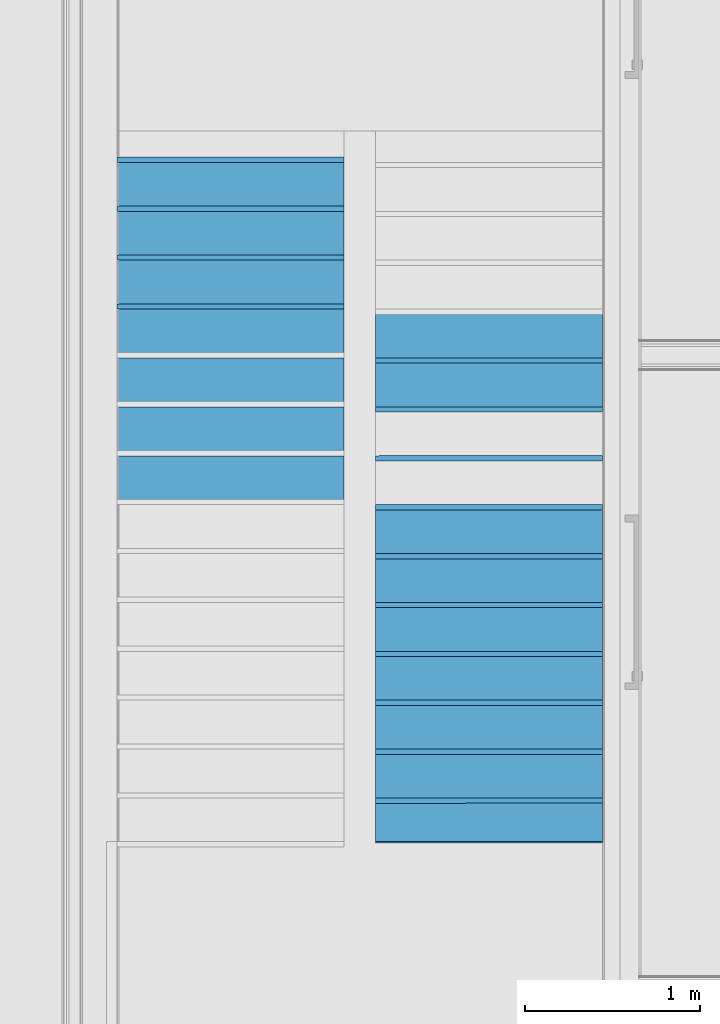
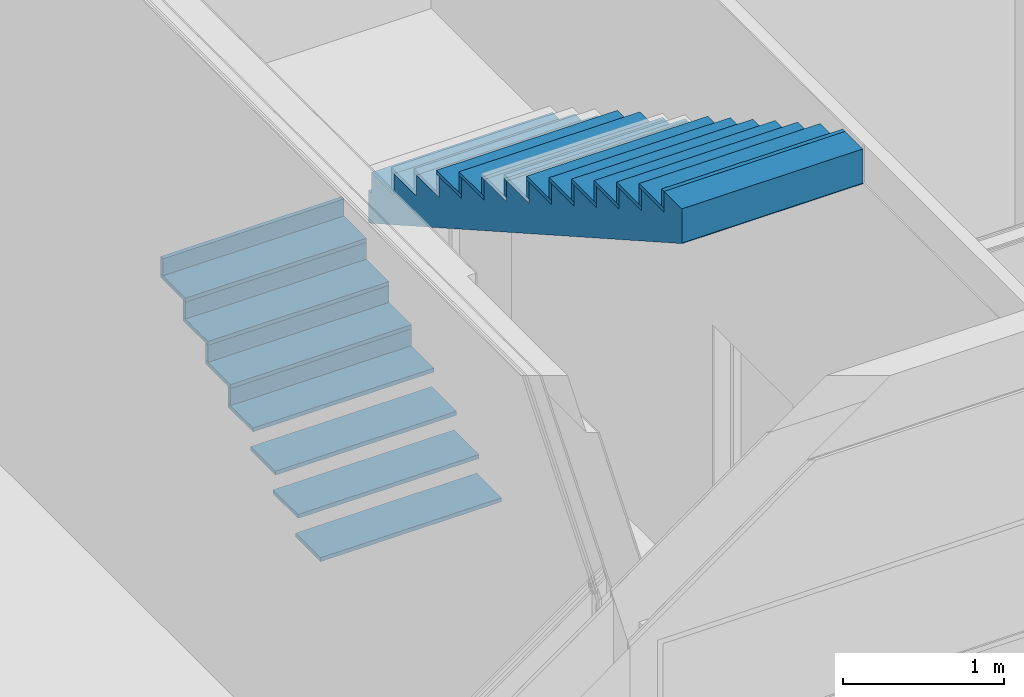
# One storey, part 85 of 260: 30 members, 1 element without a shape of its own.
"""IFC2X3 building model written with IfcOpenShell, lengths in millimetres."""

from ifc_helpers import new_model, entity, si_unit, converted_unit, derived_unit, money_unit, direction, frame, origin_with_axes, place, context, subcontext, project, spatial, faceted_brep, material, type_object, element, aggregate, save


model = new_model("IFC2X3")

# Units and contexts
model_context = context("Model", 3, precision=0.01, world=origin_with_axes(), true_north=direction((0.0, 1.0)))
body_context = subcontext(model_context, "Body", "Model", "MODEL_VIEW")
ifc_project = project(units=[si_unit("LENGTHUNIT", "METRE", prefix="MILLI"), si_unit("AREAUNIT", "SQUARE_METRE"), si_unit("VOLUMEUNIT", "CUBIC_METRE"), converted_unit("PLANEANGLEUNIT", "DEGREE", entity("IfcPlaneAngleMeasure", 0.0174532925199), si_unit("PLANEANGLEUNIT", "RADIAN"), dimensions=[0, 0, 0, 0, 0, 0, 0]), money_unit("EUR"), converted_unit("TIMEUNIT", "Year", entity("IfcTimeMeasure", 31556926.0), si_unit("TIMEUNIT", "SECOND"), dimensions=[0, 0, 1, 0, 0, 0, 0]), si_unit("MASSUNIT", "GRAM", prefix="KILO"), si_unit("THERMODYNAMICTEMPERATUREUNIT", "DEGREE_CELSIUS"), si_unit("LUMINOUSINTENSITYUNIT", "LUMEN"), si_unit("ENERGYUNIT", "JOULE", prefix="MEGA"), derived_unit("THERMALCONDUCTANCEUNIT", [(si_unit("POWERUNIT", "WATT"), 1), (si_unit("LENGTHUNIT", "METRE"), -1), (si_unit("THERMODYNAMICTEMPERATUREUNIT", "KELVIN"), -1)]), derived_unit("SPECIFICHEATCAPACITYUNIT", [(si_unit("ENERGYUNIT", "JOULE"), 1), (si_unit("MASSUNIT", "GRAM", prefix="KILO"), -1), (si_unit("THERMODYNAMICTEMPERATUREUNIT", "KELVIN"), -1)]), derived_unit("MASSDENSITYUNIT", [(si_unit("MASSUNIT", "GRAM", prefix="KILO"), 1), (si_unit("VOLUMEUNIT", "CUBIC_METRE"), -1)])], contexts=[model_context])

# Site, building, storey
site_placement = place(None, origin_with_axes())
site = spatial("IfcSite", under=ifc_project, at=site_placement, Name="Kolde pst 67a", CompositionType="ELEMENT")
building_placement = place(site_placement, origin_with_axes())
building = spatial("IfcBuilding", under=site, at=building_placement, Name="Riigigümnaasium", CompositionType="ELEMENT")
storey_placement = place(building_placement, origin_with_axes())
storey = spatial("IfcBuildingStorey", under=building, at=storey_placement, Name="1. korrus", CompositionType="ELEMENT", Elevation=0.0)

# Stair, members
stair_placement = place(storey_placement, frame((51080.0647046, 55109.9959971, 0.0), z_axis=(0.0, 0.0, 1.0), x_axis=(-2.45133837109e-05, 0.9999999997, 0.0)))
stair = element("IfcStair", 1, at=stair_placement, inside=storey, Name="TREPP", ShapeType="NOTDEFINED")
ifc_material_1 = material(Name="_KANDETARIND - raudbetoon C25/30 vastavalt EK osale")
member_type_1 = type_object("IfcMemberType", Name="IfcMember", PredefinedType="USERDEFINED")
member_1_placement = place(stair_placement, origin_with_axes())
member_1 = element("IfcMember", 2, at=member_1_placement, type_object=member_type_1, material=ifc_material_1, Name="TT KONSTRUKTSIOON - 011", ObjectType="Stair Structure", context=body_context, shape_type="Brep", body=[
    faceted_brep([(-30.0060105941, -1500.04457852, 4570.0), (-30.0044584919, -200.044578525, 4570.0), (-249.991817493, -200.04431583, 4570.0), (-250.01533978, -1500.0443158, 4570.0), (-30.0060105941, -1500.04457852, 4411.37931034), (-30.0044584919, -200.044578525, 4411.37931034), (-256.806112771, -200.044307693, 4310.0), (-249.991817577, -200.048947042, 4310.0), (-249.991817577, -200.048947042, 4320.0), (249.995541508, -200.044912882, 4411.37931034), (249.995541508, -200.044912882, 4252.75862069), (529.995541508, -200.045247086, 4252.75862069), (529.995541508, -200.045247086, 4094.13793103), (809.995541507, -200.04558134, 4094.13793103), (809.995541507, -200.04558134, 3935.51724138), (1089.99554151, -200.045915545, 3935.51724138), (1089.99554151, -200.045915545, 3776.89655172), (1369.99554151, -200.046249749, 3776.89655172), (1369.99554151, -200.046249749, 3618.27586207), (1649.99554151, -200.046583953, 3618.27586207), (1649.99554151, -200.046583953, 3459.65517241), (1929.99554151, -200.046918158, 3459.65517241), (1929.99554151, -200.046918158, 3301.03448276), (2209.99554151, -200.047254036, 3301.03448276), (2209.99554151, -200.047254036, 3142.4137931), (2489.99554151, -200.04758824, 3142.4137931), (2489.99554151, -200.04758824, 2983.79310345), (2769.99554151, -200.047922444, 2983.79310345), (2769.99554151, -200.047922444, 2825.17241379), (3049.99554151, -200.048256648, 2825.17241379), (3049.99554151, -200.048256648, 2666.55172414), (3329.99554151, -200.048590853, 2666.55172414), (3329.99554151, -200.048590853, 2507.93103448), (3609.99554151, -200.048920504, 2507.93103448), (3609.99554151, -200.048920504, 2349.31034483), (3639.99552214, -200.048947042, 2349.31034483), (3645.5417062, -200.048947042, 2349.31034483), (3645.5417062, -200.048947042, 2099.31034483), (3639.99552214, -200.048947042, 2102.45226859), (3546.66220115, -200.048831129, 2155.32582619), (3453.32887014, -200.048721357, 2208.19938944), (3359.99553913, -200.048611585, 2261.07295256), (3266.66220659, -200.04851401, 2313.94651614), (3173.32887405, -200.048402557, 2366.82007966), (3079.99554151, -200.048291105, 2419.6936431), (2986.66220817, -200.048180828, 2472.56720665), (2893.32887484, -200.048069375, 2525.44077012), (2799.99554151, -200.047957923, 2578.31433355), (2706.66220817, -200.04784647, 2631.18789685), (2613.32887484, -200.047735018, 2684.0614601), (2519.99554151, -200.047623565, 2736.93502334), (2426.66220817, -200.047512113, 2789.80858656), (2333.32887484, -200.04740066, 2842.68214978), (2239.99554151, -200.047289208, 2895.555713), (2146.66220817, -200.047177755, 2948.42927622), (2053.32887484, -200.047066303, 3001.30283943), (1959.99554151, -200.04695485, 3054.17640265), (1866.66220817, -200.046843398, 3107.04996587), (1773.32887484, -200.046731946, 3159.92352909), (1679.99554151, -200.046611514, 3212.79709231), (1586.66220817, -200.046500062, 3265.67065553), (1493.32887484, -200.04638861, 3318.54421874), (1399.99554151, -200.046277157, 3371.41778196), (1306.66220817, -200.046167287, 3424.29134518), (1213.32887484, -200.046055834, 3477.1649084), (1119.99554151, -200.045944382, 3530.03847162), (1026.66220817, -200.045834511, 3582.91203484), (933.328874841, -200.045723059, 3635.78559806), (839.995541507, -200.045611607, 3688.65916127), (746.662208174, -200.045501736, 3741.53272449), (653.328874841, -200.045390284, 3794.40628771), (559.995541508, -200.045278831, 3847.27985093), (466.662208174, -200.045168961, 3900.15341415), (373.328874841, -200.045057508, 3953.02697736), (279.995541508, -200.044946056, 4005.90054058), (186.662208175, -200.044835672, 4058.7741038), (93.3288748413, -200.044724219, 4111.64766702), (-0.00445849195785, -200.044612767, 4164.52123024), (-93.3377917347, -200.044502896, 4217.39479343), (-186.671124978, -200.044391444, 4270.26835664), (-250.015339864, -1500.04894699, 4320.0), (-250.015339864, -1500.04894699, 4310.0), (-256.807665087, -1500.04430981, 4310.0), (-186.672677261, -1500.04439357, 4270.26835664), (-93.3393439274, -1500.04450502, 4217.39479343), (-0.00601059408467, -1500.04461647, 4164.52123022), (93.3273227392, -1500.04472792, 4111.64766702), (186.660656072, -1500.04483937, 4058.7741038), (279.993989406, -1500.04495083, 4005.90054058), (373.327322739, -1500.04506228, 3953.02697737), (466.660656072, -1500.04517373, 3900.15341415), (559.993989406, -1500.04528518, 3847.27985093), (653.327322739, -1500.04539664, 3794.40628771), (746.660656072, -1500.04550809, 3741.53272449), (839.993989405, -1500.04561954, 3688.65916127), (933.327322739, -1500.04573099, 3635.78559806), (1026.66065607, -1500.04584245, 3582.91203484), (1119.99398941, -1500.0459539, 3530.03847162), (1213.32732274, -1500.04606535, 3477.1649084), (1306.66065607, -1500.0461768, 3424.29134518), (1399.9939894, -1500.04628826, 3371.41778196), (1493.32732274, -1500.04639971, 3318.54421874), (1586.66065607, -1500.04651116, 3265.67065553), (1679.9939894, -1500.04662261, 3212.79709231), (1773.32732274, -1500.04673407, 3159.92352909), (1866.66065607, -1500.04684552, 3107.04996587), (1959.9939894, -1500.04695697, 3054.17640265), (2053.32732274, -1500.04706842, 3001.30283943), (2146.66065607, -1500.04717988, 2948.42927622), (2239.9939894, -1500.04729133, 2895.555713), (2333.32732274, -1500.04740278, 2842.68214978), (2426.66065607, -1500.04751423, 2789.80858656), (2519.9939894, -1500.04762569, 2736.93502334), (2613.32732274, -1500.04773714, 2684.06146012), (2706.66065607, -1500.04784859, 2631.1878969), (2799.9939894, -1500.04796004, 2578.31433368), (2893.32732274, -1500.0480715, 2525.44077039), (2986.66065607, -1500.04818295, 2472.56720711), (3079.9939894, -1500.0482944, 2419.69364377), (3173.32732274, -1500.04840585, 2366.82008011), (3266.66065607, -1500.04851731, 2313.94651637), (3359.9939894, -1500.04862876, 2261.07295253), (3453.32732042, -1500.04874145, 2208.19938947), (3546.66065143, -1500.04885122, 2155.32582622), (3639.9939894, -1500.04894699, 2102.45225897), (3645.54017346, -1500.04894699, 2099.31034483), (3645.54017346, -1500.04894699, 2349.31034483), (3639.9939894, -1500.04894699, 2349.31034483), (3609.9939894, -1500.04892538, 2349.31034483), (3609.9939894, -1500.04892538, 2507.93103448), (3329.9939894, -1500.04859102, 2507.93103448), (3329.9939894, -1500.04859102, 2666.55172414), (3049.9939894, -1500.04825666, 2666.55172414), (3049.9939894, -1500.04825666, 2825.17241379), (2769.9939894, -1500.0479223, 2825.17241379), (2769.9939894, -1500.0479223, 2983.79310345), (2489.9939894, -1500.04758795, 2983.79310345), (2489.9939894, -1500.04758795, 3142.4137931), (2209.9939894, -1500.04725359, 3142.4137931), (2209.9939894, -1500.04725359, 3301.03448276), (1929.9939894, -1500.04691923, 3301.03448276), (1929.9939894, -1500.04691923, 3459.65517241), (1649.9939894, -1500.04658487, 3459.65517241), (1649.9939894, -1500.04658487, 3618.27586207), (1369.9939894, -1500.04625052, 3618.27586207), (1369.9939894, -1500.04625052, 3776.89655172), (1089.99398941, -1500.04591616, 3776.89655172), (1089.99398941, -1500.04591616, 3935.51724138), (809.993989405, -1500.0455818, 3935.51724138), (809.993989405, -1500.0455818, 4094.13793103), (529.993989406, -1500.04524744, 4094.13793103), (529.993989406, -1500.04524744, 4252.75862069), (249.993989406, -1500.04491309, 4252.75862069), (249.993989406, -1500.04491309, 4411.37931034)], [[[0, 1, 2, 3]], [[4, 5, 1, 0]], [[6, 7, 8, 2, 1, 5, 9, 10, 11, 12, 13, 14, 15, 16, 17, 18, 19, 20, 21, 22, 23, 24, 25, 26, 27, 28, 29, 30, 31, 32, 33, 34, 35, 36, 37, 38, 39, 40, 41, 42, 43, 44, 45, 46, 47, 48, 49, 50, 51, 52, 53, 54, 55, 56, 57, 58, 59, 60, 61, 62, 63, 64, 65, 66, 67, 68, 69, 70, 71, 72, 73, 74, 75, 76, 77, 78, 79]], [[2, 8, 80, 3]], [[3, 80, 81, 82, 83, 84, 85, 86, 87, 88, 89, 90, 91, 92, 93, 94, 95, 96, 97, 98, 99, 100, 101, 102, 103, 104, 105, 106, 107, 108, 109, 110, 111, 112, 113, 114, 115, 116, 117, 118, 119, 120, 121, 122, 123, 124, 125, 126, 127, 128, 129, 130, 131, 132, 133, 134, 135, 136, 137, 138, 139, 140, 141, 142, 143, 144, 145, 146, 147, 148, 149, 150, 151, 152, 153, 4, 0]], [[153, 9, 5, 4]], [[7, 6, 82, 81]], [[8, 7, 81, 80]], [[152, 10, 9, 153]], [[151, 11, 10, 152]], [[150, 12, 11, 151]], [[149, 13, 12, 150]], [[148, 14, 13, 149]], [[147, 15, 14, 148]], [[146, 16, 15, 147]], [[145, 17, 16, 146]], [[144, 18, 17, 145]], [[143, 19, 18, 144]], [[142, 20, 19, 143]], [[141, 21, 20, 142]], [[140, 22, 21, 141]], [[139, 23, 22, 140]], [[138, 24, 23, 139]], [[137, 25, 24, 138]], [[136, 26, 25, 137]], [[135, 27, 26, 136]], [[134, 28, 27, 135]], [[133, 29, 28, 134]], [[132, 30, 29, 133]], [[131, 31, 30, 132]], [[130, 32, 31, 131]], [[129, 33, 32, 130]], [[128, 34, 33, 129]], [[34, 128, 127, 126, 36, 35]], [[36, 126, 125, 37]], [[125, 124, 38, 37]], [[39, 38, 124, 123]], [[123, 122, 40, 39]], [[122, 121, 41, 40]], [[121, 120, 42, 41]], [[120, 119, 43, 42]], [[119, 118, 44, 43]], [[118, 117, 45, 44]], [[117, 116, 46, 45]], [[116, 115, 47, 46]], [[115, 114, 48, 47]], [[114, 113, 49, 48]], [[113, 112, 50, 49]], [[112, 111, 51, 50]], [[111, 110, 52, 51]], [[110, 109, 53, 52]], [[109, 108, 54, 53]], [[108, 107, 55, 54]], [[107, 106, 56, 55]], [[106, 105, 57, 56]], [[105, 104, 58, 57]], [[104, 103, 59, 58]], [[103, 102, 60, 59]], [[102, 101, 61, 60]], [[101, 100, 62, 61]], [[100, 99, 63, 62]], [[99, 98, 64, 63]], [[98, 97, 65, 64]], [[97, 96, 66, 65]], [[96, 95, 67, 66]], [[95, 94, 68, 67]], [[94, 93, 69, 68]], [[93, 92, 70, 69]], [[92, 91, 71, 70]], [[91, 90, 72, 71]], [[90, 89, 73, 72]], [[89, 88, 74, 73]], [[88, 87, 75, 74]], [[87, 86, 76, 75]], [[86, 85, 77, 76]], [[85, 84, 78, 77]], [[84, 83, 79, 78]], [[79, 83, 82, 6]]]),
])
ifc_material_2 = material(Name="_VIIMISTLUSKIHT - viimistlus vastavalt SA osale")
member_type_2 = type_object("IfcMemberType", Name="IfcMember", PredefinedType="USERDEFINED")
member_2_placement = place(stair_placement, frame((2800.00874278, 649.96233763, 1873.44827586), z_axis=(0.0, 0.0, 1.0), x_axis=(1.34508253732e-05, 0.99999999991, 0.0)))
member_2 = element("IfcMember", 3, at=member_2_placement, type_object=member_type_2, material=ifc_material_2, Name="TV TÕUS - 157", ObjectType="Stair Riser", context=body_context, shape_type="Brep", body=[
    faceted_brep([(630.0, 0.0, 0.0), (-670.0, 0.0, 0.0), (-670.0, -30.0, 0.0), (630.0, -30.0, 0.0), (630.0, 0.0, -128.620689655), (-670.0, 0.0, -128.620689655), (-670.0, -30.0, -128.620689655), (630.0, -30.0, -128.620689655)], [[[0, 1, 2, 3]], [[4, 5, 1, 0]], [[1, 5, 6, 2]], [[3, 2, 6, 7]], [[0, 3, 7, 4]], [[7, 6, 5, 4]]]),
])
member_3_placement = place(stair_placement, frame((3080.00874276, 649.958571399, 2032.06896552), z_axis=(0.0, 0.0, 1.0), x_axis=(1.34508253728e-05, 0.99999999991, 0.0)))
member_3 = element("IfcMember", 4, at=member_3_placement, type_object=member_type_2, material=ifc_material_2, Name="TV TÕUS - 158", ObjectType="Stair Riser", context=body_context, shape_type="Brep", body=[
    faceted_brep([(630.0, 0.0, 0.0), (-670.0, 0.0, 0.0), (-670.0, -30.0, 0.0), (630.0, -30.0, 0.0), (630.0, 0.0, -128.620689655), (-670.0, 0.0, -128.620689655), (-670.0, -30.0, -128.620689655), (630.0, -30.0, -128.620689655)], [[[0, 1, 2, 3]], [[4, 5, 1, 0]], [[1, 5, 6, 2]], [[3, 2, 6, 7]], [[0, 3, 7, 4]], [[7, 6, 5, 4]]]),
])
member_4_placement = place(stair_placement, frame((3360.00874273, 649.954805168, 2190.68965517), z_axis=(0.0, 0.0, 1.0), x_axis=(1.34508253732e-05, 0.99999999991, 0.0)))
member_4 = element("IfcMember", 5, at=member_4_placement, type_object=member_type_2, material=ifc_material_2, Name="TV TÕUS - 159", ObjectType="Stair Riser", context=body_context, shape_type="Brep", body=[
    faceted_brep([(630.0, 0.0, 0.0), (-670.0, 0.0, 0.0), (-670.0, -30.0, 0.0), (630.0, -30.0, 0.0), (630.0, 0.0, -128.620689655), (-670.0, 0.0, -128.620689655), (-670.0, -30.0, -128.620689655), (630.0, -30.0, -128.620689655)], [[[0, 1, 2, 3]], [[4, 5, 1, 0]], [[1, 5, 6, 2]], [[3, 2, 6, 7]], [[0, 3, 7, 4]], [[7, 6, 5, 4]]]),
])
member_5_placement = place(stair_placement, frame((3640.00874271, 649.951038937, 2349.31034483), z_axis=(0.0, 0.0, 1.0), x_axis=(1.34508253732e-05, 0.99999999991, 0.0)))
member_5 = element("IfcMember", 6, at=member_5_placement, type_object=member_type_2, material=ifc_material_2, Name="SL RISER - 006", ObjectType="Stair Riser", context=body_context, shape_type="Brep", body=[
    faceted_brep([(-670.0, -30.0, 0.0), (630.0, -30.0, 0.0), (630.0, 0.0, 0.0), (-670.0, 0.0, 0.0), (-670.0, -30.0, -128.620689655), (630.0, -30.0, -128.620689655), (630.0, 0.0, -128.620689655), (-670.0, 0.0, -128.620689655)], [[[0, 1, 2, 3]], [[4, 5, 1, 0]], [[5, 6, 2, 1]], [[3, 2, 6, 7]], [[4, 0, 3, 7]], [[7, 6, 5, 4]]]),
])
member_6_placement = place(stair_placement, frame((2519.99476559, -850.047623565, 3142.4137931), z_axis=(0.0, 0.0, 1.0), x_axis=(-1.19413351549e-06, -0.999999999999, 0.0)))
member_6 = element("IfcMember", 7, at=member_6_placement, type_object=member_type_2, material=ifc_material_2, Name="TV TÕUS - 164", ObjectType="Stair Riser", context=body_context, shape_type="Brep", body=[
    faceted_brep([(650.0, 0.0, 0.0), (-649.999999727, 0.0, 0.0), (-649.999999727, -30.0, 0.0), (650.0, -30.0, 0.0), (650.0, 0.0, -128.620689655), (-649.999999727, 0.0, -128.620689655), (-649.999999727, -30.0, -128.620689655), (650.0, -30.0, -128.620689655)], [[[0, 1, 2, 3]], [[4, 5, 1, 0]], [[1, 5, 6, 2]], [[3, 2, 6, 7]], [[0, 3, 7, 4]], [[7, 6, 5, 4]]]),
])
member_7_placement = place(stair_placement, frame((2239.99476559, -850.047289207, 3301.03448276), z_axis=(0.0, 0.0, 1.0), x_axis=(-1.19413351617e-06, -0.999999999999, 0.0)))
member_7 = element("IfcMember", 8, at=member_7_placement, type_object=member_type_2, material=ifc_material_2, Name="TV TÕUS - 165", ObjectType="Stair Riser", context=body_context, shape_type="Brep", body=[
    faceted_brep([(650.0, 0.0, 0.0), (-649.999999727, 0.0, 0.0), (-649.999999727, -30.0, 0.0), (650.0, -30.0, 0.0), (650.0, 0.0, -128.620689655), (-649.999999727, 0.0, -128.620689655), (-649.999999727, -30.0, -128.620689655), (650.0, -30.0, -128.620689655)], [[[0, 1, 2, 3]], [[4, 5, 1, 0]], [[1, 5, 6, 2]], [[3, 2, 6, 7]], [[0, 3, 7, 4]], [[7, 6, 5, 4]]]),
])
member_8_placement = place(stair_placement, frame((1959.99476559, -850.04695485, 3459.65517241), z_axis=(0.0, 0.0, 1.0), x_axis=(-1.19413351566e-06, -0.999999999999, 0.0)))
member_8 = element("IfcMember", 9, at=member_8_placement, type_object=member_type_2, material=ifc_material_2, Name="TV TÕUS - 166", ObjectType="Stair Riser", context=body_context, shape_type="Brep", body=[
    faceted_brep([(650.0, 0.0, 0.0), (-649.999999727, 0.0, 0.0), (-649.999999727, -30.0, 0.0), (650.0, -30.0, 0.0), (650.0, 0.0, -128.620689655), (-649.999999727, 0.0, -128.620689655), (-649.999999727, -30.0, -128.620689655), (650.0, -30.0, -128.620689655)], [[[0, 1, 2, 3]], [[4, 5, 1, 0]], [[1, 5, 6, 2]], [[3, 2, 6, 7]], [[0, 3, 7, 4]], [[7, 6, 5, 4]]]),
])
member_9_placement = place(stair_placement, frame((1679.99476559, -850.046620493, 3618.27586207), z_axis=(0.0, 0.0, 1.0), x_axis=(-1.19413351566e-06, -0.999999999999, 0.0)))
member_9 = element("IfcMember", 10, at=member_9_placement, type_object=member_type_2, material=ifc_material_2, Name="TV TÕUS - 167", ObjectType="Stair Riser", context=body_context, shape_type="Brep", body=[
    faceted_brep([(650.0, 0.0, 0.0), (-649.999999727, 0.0, 0.0), (-649.999999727, -30.0, 0.0), (650.0, -30.0, 0.0), (650.0, 0.0, -128.620689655), (-649.999999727, 0.0, -128.620689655), (-649.999999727, -30.0, -128.620689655), (650.0, -30.0, -128.620689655)], [[[0, 1, 2, 3]], [[4, 5, 1, 0]], [[1, 5, 6, 2]], [[3, 2, 6, 7]], [[0, 3, 7, 4]], [[7, 6, 5, 4]]]),
])
member_10_placement = place(stair_placement, frame((1399.99476559, -850.046286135, 3776.89655172), z_axis=(0.0, 0.0, 1.0), x_axis=(-1.19413351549e-06, -0.999999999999, 0.0)))
member_10 = element("IfcMember", 11, at=member_10_placement, type_object=member_type_2, material=ifc_material_2, Name="TV TÕUS - 168", ObjectType="Stair Riser", context=body_context, shape_type="Brep", body=[
    faceted_brep([(650.0, 0.0, 0.0), (-649.999999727, 0.0, 0.0), (-649.999999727, -30.0, 0.0), (650.0, -30.0, 0.0), (650.0, 0.0, -128.620689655), (-649.999999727, 0.0, -128.620689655), (-649.999999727, -30.0, -128.620689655), (650.0, -30.0, -128.620689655)], [[[0, 1, 2, 3]], [[4, 5, 1, 0]], [[1, 5, 6, 2]], [[3, 2, 6, 7]], [[0, 3, 7, 4]], [[7, 6, 5, 4]]]),
])
member_11_placement = place(stair_placement, frame((1119.99476559, -850.045951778, 3935.51724138), z_axis=(0.0, 0.0, 1.0), x_axis=(-1.19413351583e-06, -0.999999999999, 0.0)))
member_11 = element("IfcMember", 12, at=member_11_placement, type_object=member_type_2, material=ifc_material_2, Name="TV TÕUS - 169", ObjectType="Stair Riser", context=body_context, shape_type="Brep", body=[
    faceted_brep([(650.0, 0.0, 0.0), (-649.999999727, 0.0, 0.0), (-649.999999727, -30.0, 0.0), (650.0, -30.0, 0.0), (650.0, 0.0, -128.620689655), (-649.999999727, 0.0, -128.620689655), (-649.999999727, -30.0, -128.620689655), (650.0, -30.0, -128.620689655)], [[[0, 1, 2, 3]], [[4, 5, 1, 0]], [[1, 5, 6, 2]], [[3, 2, 6, 7]], [[0, 3, 7, 4]], [[7, 6, 5, 4]]]),
])
member_12_placement = place(stair_placement, frame((839.994765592, -850.04561742, 4094.13793103), z_axis=(0.0, 0.0, 1.0), x_axis=(-1.19413351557e-06, -0.999999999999, 0.0)))
member_12 = element("IfcMember", 13, at=member_12_placement, type_object=member_type_2, material=ifc_material_2, Name="TV TÕUS - 170", ObjectType="Stair Riser", context=body_context, shape_type="Brep", body=[
    faceted_brep([(650.0, 0.0, 0.0), (-649.999999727, 0.0, 0.0), (-649.999999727, -30.0, 0.0), (650.0, -30.0, 0.0), (650.0, 0.0, -128.620689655), (-649.999999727, 0.0, -128.620689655), (-649.999999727, -30.0, -128.620689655), (650.0, -30.0, -128.620689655)], [[[0, 1, 2, 3]], [[4, 5, 1, 0]], [[1, 5, 6, 2]], [[3, 2, 6, 7]], [[0, 3, 7, 4]], [[7, 6, 5, 4]]]),
])
member_13_placement = place(stair_placement, frame((559.994765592, -850.045283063, 4252.75862069), z_axis=(0.0, 0.0, 1.0), x_axis=(-1.19413351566e-06, -0.999999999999, 0.0)))
member_13 = element("IfcMember", 14, at=member_13_placement, type_object=member_type_2, material=ifc_material_2, Name="TV TÕUS - 171", ObjectType="Stair Riser", context=body_context, shape_type="Brep", body=[
    faceted_brep([(650.0, 0.0, 0.0), (-649.999999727, 0.0, 0.0), (-649.999999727, -30.0, 0.0), (650.0, -30.0, 0.0), (650.0, 0.0, -128.620689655), (-649.999999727, 0.0, -128.620689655), (-649.999999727, -30.0, -128.620689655), (650.0, -30.0, -128.620689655)], [[[0, 1, 2, 3]], [[4, 5, 1, 0]], [[1, 5, 6, 2]], [[3, 2, 6, 7]], [[0, 3, 7, 4]], [[7, 6, 5, 4]]]),
])
member_14_placement = place(stair_placement, frame((279.994765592, -850.044948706, 4411.37931034), z_axis=(0.0, 0.0, 1.0), x_axis=(-1.19413351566e-06, -0.999999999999, 0.0)))
member_14 = element("IfcMember", 15, at=member_14_placement, type_object=member_type_2, material=ifc_material_2, Name="TV TÕUS - 172", ObjectType="Stair Riser", context=body_context, shape_type="Brep", body=[
    faceted_brep([(650.0, 0.0, 0.0), (-649.999999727, 0.0, 0.0), (-649.999999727, -30.0, 0.0), (650.0, -30.0, 0.0), (650.0, 0.0, -128.620689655), (-649.999999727, 0.0, -128.620689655), (-649.999999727, -30.0, -128.620689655), (650.0, -30.0, -128.620689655)], [[[0, 1, 2, 3]], [[4, 5, 1, 0]], [[1, 5, 6, 2]], [[3, 2, 6, 7]], [[0, 3, 7, 4]], [[7, 6, 5, 4]]]),
])
member_15_placement = place(stair_placement, frame((-0.00523440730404, -850.044614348, 4570.0), z_axis=(0.0, 0.0, 1.0), x_axis=(-1.19413351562e-06, -0.999999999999, 0.0)))
member_15 = element("IfcMember", 16, at=member_15_placement, type_object=member_type_2, material=ifc_material_2, Name="TV TÕUS - 173", ObjectType="Stair Riser", context=body_context, shape_type="Brep", body=[
    faceted_brep([(650.0, 0.0, 0.0), (-649.999999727, 0.0, 0.0), (-649.999999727, -30.0, 0.0), (650.0, -30.0, 0.0), (650.0, 0.0, -128.620689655), (-649.999999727, 0.0, -128.620689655), (-649.999999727, -30.0, -128.620689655), (650.0, -30.0, -128.620689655)], [[[0, 1, 2, 3]], [[4, 5, 1, 0]], [[1, 5, 6, 2]], [[3, 2, 6, 7]], [[0, 3, 7, 4]], [[7, 6, 5, 4]]]),
])
member_type_3 = type_object("IfcMemberType", Name="IfcMember", PredefinedType="USERDEFINED")
member_16_placement = place(stair_placement, frame((1680.00874288, 649.977402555, 1268.96551724), z_axis=(0.0, 0.0, 1.0), x_axis=(1.34508253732e-05, 0.99999999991, 0.0)))
member_16 = element("IfcMember", 17, at=member_16_placement, type_object=member_type_3, material=ifc_material_2, Name="TV ASTE - 153", ObjectType="Stair Tread", context=body_context, shape_type="Brep", body=[
    faceted_brep([(-670.0, 0.0, -30.0), (-670.0, 0.0, 0.0), (630.0, 0.0, 0.0), (630.0, 0.0, -30.0), (-670.0, -309.999993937, -30.0), (-670.0, -309.999993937, 0.0), (630.0, -310.00000041, 0.0), (630.0, -310.00000041, -30.0)], [[[0, 1, 2, 3]], [[4, 5, 1, 0]], [[1, 5, 6, 2]], [[3, 2, 6, 7]], [[0, 3, 7, 4]], [[7, 6, 5, 4]]]),
])
member_17_placement = place(stair_placement, frame((1960.00874286, 649.973636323, 1427.5862069), z_axis=(0.0, 0.0, 1.0), x_axis=(1.34508253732e-05, 0.99999999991, 0.0)))
member_17 = element("IfcMember", 18, at=member_17_placement, type_object=member_type_3, material=ifc_material_2, Name="TV ASTE - 154", ObjectType="Stair Tread", context=body_context, shape_type="Brep", body=[
    faceted_brep([(-670.0, 0.0, -30.0), (-670.0, 0.0, 0.0), (630.0, 0.0, 0.0), (630.0, 0.0, -30.0), (-670.0, -309.999993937, -30.0), (-670.0, -309.999993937, 0.0), (630.0, -310.00000041, 0.0), (630.0, -310.00000041, -30.0)], [[[0, 1, 2, 3]], [[4, 5, 1, 0]], [[1, 5, 6, 2]], [[3, 2, 6, 7]], [[0, 3, 7, 4]], [[7, 6, 5, 4]]]),
])
member_18_placement = place(stair_placement, frame((2240.00874283, 649.969870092, 1586.20689655), z_axis=(0.0, 0.0, 1.0), x_axis=(1.34508253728e-05, 0.99999999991, 0.0)))
member_18 = element("IfcMember", 19, at=member_18_placement, type_object=member_type_3, material=ifc_material_2, Name="TV ASTE - 155", ObjectType="Stair Tread", context=body_context, shape_type="Brep", body=[
    faceted_brep([(-670.0, 0.0, -30.0), (-670.0, 0.0, 0.0), (630.0, 0.0, 0.0), (630.0, 0.0, -30.0), (-670.0, -309.999993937, -30.0), (-670.0, -309.999993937, 0.0), (630.0, -310.00000041, 0.0), (630.0, -310.00000041, -30.0)], [[[0, 1, 2, 3]], [[4, 5, 1, 0]], [[1, 5, 6, 2]], [[3, 2, 6, 7]], [[0, 3, 7, 4]], [[7, 6, 5, 4]]]),
])
member_19_placement = place(stair_placement, frame((2520.00874281, 649.966103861, 1744.82758621), z_axis=(0.0, 0.0, 1.0), x_axis=(1.34508253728e-05, 0.99999999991, 0.0)))
member_19 = element("IfcMember", 20, at=member_19_placement, type_object=member_type_3, material=ifc_material_2, Name="TV ASTE - 156", ObjectType="Stair Tread", context=body_context, shape_type="Brep", body=[
    faceted_brep([(-670.0, 0.0, -30.0), (-670.0, 0.0, 0.0), (630.0, 0.0, 0.0), (630.0, 0.0, -30.0), (-670.0, -309.999993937, -30.0), (-670.0, -309.999993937, 0.0), (630.0, -310.00000041, 0.0), (630.0, -310.00000041, -30.0)], [[[0, 1, 2, 3]], [[4, 5, 1, 0]], [[1, 5, 6, 2]], [[3, 2, 6, 7]], [[0, 3, 7, 4]], [[7, 6, 5, 4]]]),
])
member_20_placement = place(stair_placement, frame((2800.00874278, 649.96233763, 1903.44827586), z_axis=(0.0, 0.0, 1.0), x_axis=(1.34508253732e-05, 0.99999999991, 0.0)))
member_20 = element("IfcMember", 21, at=member_20_placement, type_object=member_type_3, material=ifc_material_2, Name="TV ASTE - 157", ObjectType="Stair Tread", context=body_context, shape_type="Brep", body=[
    faceted_brep([(-670.0, 0.0, -30.0), (-670.0, 0.0, 0.0), (630.0, 0.0, 0.0), (630.0, 0.0, -30.0), (-670.0, -309.999993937, -30.0), (-670.0, -309.999993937, 0.0), (630.0, -310.00000041, 0.0), (630.0, -310.00000041, -30.0)], [[[0, 1, 2, 3]], [[4, 5, 1, 0]], [[1, 5, 6, 2]], [[3, 2, 6, 7]], [[0, 3, 7, 4]], [[7, 6, 5, 4]]]),
])
member_21_placement = place(stair_placement, frame((3080.00874276, 649.958571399, 2062.06896552), z_axis=(0.0, 0.0, 1.0), x_axis=(1.34508253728e-05, 0.99999999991, 0.0)))
member_21 = element("IfcMember", 22, at=member_21_placement, type_object=member_type_3, material=ifc_material_2, Name="TV ASTE - 158", ObjectType="Stair Tread", context=body_context, shape_type="Brep", body=[
    faceted_brep([(-670.0, 0.0, -30.0), (-670.0, 0.0, 0.0), (630.0, 0.0, 0.0), (630.0, 0.0, -30.0), (-670.0, -309.999993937, -30.0), (-670.0, -309.999993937, 0.0), (630.0, -310.00000041, 0.0), (630.0, -310.00000041, -30.0)], [[[0, 1, 2, 3]], [[4, 5, 1, 0]], [[1, 5, 6, 2]], [[3, 2, 6, 7]], [[0, 3, 7, 4]], [[7, 6, 5, 4]]]),
])
member_22_placement = place(stair_placement, frame((3360.00874273, 649.954805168, 2220.68965517), z_axis=(0.0, 0.0, 1.0), x_axis=(1.34508253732e-05, 0.99999999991, 0.0)))
member_22 = element("IfcMember", 23, at=member_22_placement, type_object=member_type_3, material=ifc_material_2, Name="TV ASTE - 159", ObjectType="Stair Tread", context=body_context, shape_type="Brep", body=[
    faceted_brep([(630.0, 0.0, 0.0), (630.0, 0.0, -30.0), (-670.0, 0.0, -30.0), (-670.0, 0.0, 0.0), (630.0, -310.000000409, 0.0), (630.0, -310.000000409, -30.0), (-670.000004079, -309.999819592, -30.0), (-670.0, -279.999823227, -30.0), (-670.0, -279.999823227, 0.0), (-670.000004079, -309.999819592, 0.0)], [[[0, 1, 2, 3]], [[4, 5, 1, 0]], [[6, 7, 2, 1, 5]], [[3, 2, 7, 8]], [[4, 0, 3, 8, 9]], [[9, 6, 5, 4]], [[8, 7, 6, 9]]]),
])
member_23_placement = place(stair_placement, frame((2799.99476559, -850.047957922, 3013.79310345), z_axis=(0.0, 0.0, 1.0), x_axis=(-1.19413351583e-06, -0.999999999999, 0.0)))
member_23 = element("IfcMember", 24, at=member_23_placement, type_object=member_type_3, material=ifc_material_2, Name="TV ASTE - 163", ObjectType="Stair Tread", context=body_context, shape_type="Brep", body=[
    faceted_brep([(-650.0, 0.0, -30.0), (-650.0, 0.0, 0.0), (650.0, 0.0, 0.0), (650.0, 0.0, -30.0), (-650.0, -310.0, -30.0), (-650.0, -310.0, 0.0), (650.0, -310.0, 0.0), (650.0, -310.0, -30.0)], [[[0, 1, 2, 3]], [[4, 5, 1, 0]], [[1, 5, 6, 2]], [[3, 2, 6, 7]], [[0, 3, 7, 4]], [[7, 6, 5, 4]]]),
])
member_24_placement = place(stair_placement, frame((2519.99476559, -850.047623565, 3172.4137931), z_axis=(0.0, 0.0, 1.0), x_axis=(-1.19413351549e-06, -0.999999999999, 0.0)))
member_24 = element("IfcMember", 25, at=member_24_placement, type_object=member_type_3, material=ifc_material_2, Name="TV ASTE - 164", ObjectType="Stair Tread", context=body_context, shape_type="Brep", body=[
    faceted_brep([(-650.0, 0.0, -30.0), (-650.0, 0.0, 0.0), (650.0, 0.0, 0.0), (650.0, 0.0, -30.0), (-650.0, -310.0, -30.0), (-650.0, -310.0, 0.0), (650.0, -310.0, 0.0), (650.0, -310.0, -30.0)], [[[0, 1, 2, 3]], [[4, 5, 1, 0]], [[1, 5, 6, 2]], [[3, 2, 6, 7]], [[0, 3, 7, 4]], [[7, 6, 5, 4]]]),
])
member_25_placement = place(stair_placement, frame((1679.99476559, -850.046620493, 3648.27586207), z_axis=(0.0, 0.0, 1.0), x_axis=(-1.19413351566e-06, -0.999999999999, 0.0)))
member_25 = element("IfcMember", 26, at=member_25_placement, type_object=member_type_3, material=ifc_material_2, Name="TV ASTE - 167", ObjectType="Stair Tread", context=body_context, shape_type="Brep", body=[
    faceted_brep([(-650.0, 0.0, -30.0), (-650.0, 0.0, 0.0), (650.0, 0.0, 0.0), (650.0, 0.0, -30.0), (-650.0, -310.0, -30.0), (-650.0, -310.0, 0.0), (650.0, -310.0, 0.0), (650.0, -310.0, -30.0)], [[[0, 1, 2, 3]], [[4, 5, 1, 0]], [[1, 5, 6, 2]], [[3, 2, 6, 7]], [[0, 3, 7, 4]], [[7, 6, 5, 4]]]),
])
member_26_placement = place(stair_placement, frame((1399.99476559, -850.046286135, 3806.89655172), z_axis=(0.0, 0.0, 1.0), x_axis=(-1.19413351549e-06, -0.999999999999, 0.0)))
member_26 = element("IfcMember", 27, at=member_26_placement, type_object=member_type_3, material=ifc_material_2, Name="TV ASTE - 168", ObjectType="Stair Tread", context=body_context, shape_type="Brep", body=[
    faceted_brep([(-650.0, 0.0, -30.0), (-650.0, 0.0, 0.0), (650.0, 0.0, 0.0), (650.0, 0.0, -30.0), (-650.0, -310.0, -30.0), (-650.0, -310.0, 0.0), (650.0, -310.0, 0.0), (650.0, -310.0, -30.0)], [[[0, 1, 2, 3]], [[4, 5, 1, 0]], [[1, 5, 6, 2]], [[3, 2, 6, 7]], [[0, 3, 7, 4]], [[7, 6, 5, 4]]]),
])
member_27_placement = place(stair_placement, frame((1119.99476559, -850.045951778, 3965.51724138), z_axis=(0.0, 0.0, 1.0), x_axis=(-1.19413351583e-06, -0.999999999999, 0.0)))
member_27 = element("IfcMember", 28, at=member_27_placement, type_object=member_type_3, material=ifc_material_2, Name="TV ASTE - 169", ObjectType="Stair Tread", context=body_context, shape_type="Brep", body=[
    faceted_brep([(-650.0, 0.0, -30.0), (-650.0, 0.0, 0.0), (650.0, 0.0, 0.0), (650.0, 0.0, -30.0), (-650.0, -310.0, -30.0), (-650.0, -310.0, 0.0), (650.0, -310.0, 0.0), (650.0, -310.0, -30.0)], [[[0, 1, 2, 3]], [[4, 5, 1, 0]], [[1, 5, 6, 2]], [[3, 2, 6, 7]], [[0, 3, 7, 4]], [[7, 6, 5, 4]]]),
])
member_28_placement = place(stair_placement, frame((839.994765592, -850.04561742, 4124.13793103), z_axis=(0.0, 0.0, 1.0), x_axis=(-1.19413351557e-06, -0.999999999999, 0.0)))
member_28 = element("IfcMember", 29, at=member_28_placement, type_object=member_type_3, material=ifc_material_2, Name="TV ASTE - 170", ObjectType="Stair Tread", context=body_context, shape_type="Brep", body=[
    faceted_brep([(-650.0, 0.0, -30.0), (-650.0, 0.0, 0.0), (650.0, 0.0, 0.0), (650.0, 0.0, -30.0), (-650.0, -310.0, -30.0), (-650.0, -310.0, 0.0), (650.0, -310.0, 0.0), (650.0, -310.0, -30.0)], [[[0, 1, 2, 3]], [[4, 5, 1, 0]], [[1, 5, 6, 2]], [[3, 2, 6, 7]], [[0, 3, 7, 4]], [[7, 6, 5, 4]]]),
])
member_29_placement = place(stair_placement, frame((559.994765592, -850.045283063, 4282.75862069), z_axis=(0.0, 0.0, 1.0), x_axis=(-1.19413351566e-06, -0.999999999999, 0.0)))
member_29 = element("IfcMember", 30, at=member_29_placement, type_object=member_type_3, material=ifc_material_2, Name="TV ASTE - 171", ObjectType="Stair Tread", context=body_context, shape_type="Brep", body=[
    faceted_brep([(-650.0, -2.71434430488e-07, -30.0), (-650.0, -2.71434430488e-07, 0.0), (650.0, 0.0, 0.0), (650.0, 0.0, -30.0), (-650.0, -167.140951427, -30.0), (-650.0, -167.140951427, 0.0), (-650.0, -310.000002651, 0.0), (650.0, -310.0, 0.0), (650.0, -310.0, -30.0), (-650.0, -310.000002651, -30.0)], [[[0, 1, 2, 3]], [[4, 5, 1, 0]], [[1, 5, 6, 7, 2]], [[3, 2, 7, 8]], [[0, 3, 8, 9, 4]], [[9, 6, 5, 4]], [[8, 7, 6, 9]]]),
])
member_30_placement = place(stair_placement, frame((279.994765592, -850.044948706, 4441.37931034), z_axis=(0.0, 0.0, 1.0), x_axis=(-1.19413351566e-06, -0.999999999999, 0.0)))
member_30 = element("IfcMember", 31, at=member_30_placement, type_object=member_type_3, material=ifc_material_2, Name="TV ASTE - 172", ObjectType="Stair Tread", context=body_context, shape_type="Brep", body=[
    faceted_brep([(-650.0, 0.0, -30.0), (-650.0, 0.0, 0.0), (650.0, 0.0, 0.0), (650.0, 0.0, -30.0), (-650.0, -310.0, -30.0), (-650.0, -310.0, 0.0), (650.0, -310.0, 0.0), (650.0, -310.0, -30.0)], [[[0, 1, 2, 3]], [[4, 5, 1, 0]], [[1, 5, 6, 2]], [[3, 2, 6, 7]], [[0, 3, 7, 4]], [[7, 6, 5, 4]]]),
])
aggregate(stair, [member_1, member_2, member_3, member_4, member_5, member_6, member_7, member_8, member_9, member_10, member_11, member_12, member_13, member_14, member_15, member_16, member_17, member_18, member_19, member_20, member_21, member_22, member_23, member_24, member_25, member_26, member_27, member_28, member_29, member_30])

save(model, "model.ifc")
